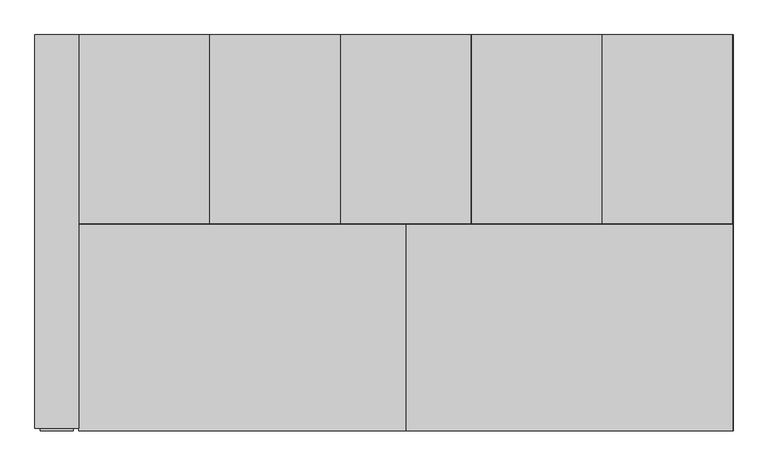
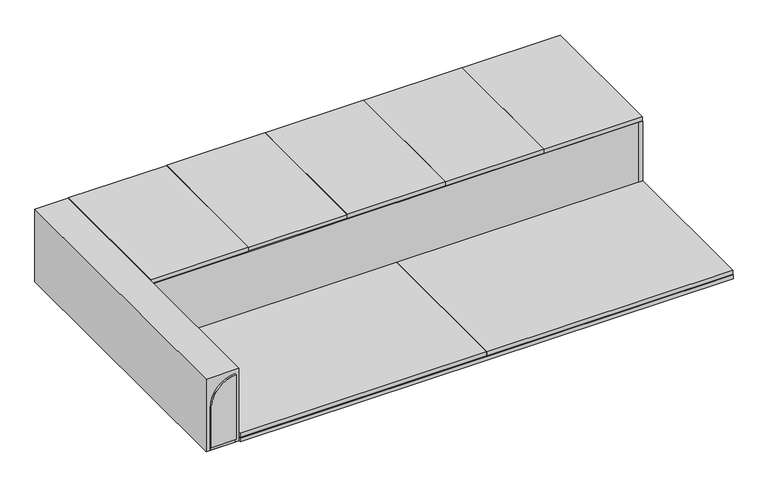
"""IFC4 building model written with IfcOpenShell, lengths in millimetres: proxy geometry, BASYS^OFFICE 1_HIGH RISE-14x55x90-5 DOORS."""

from ifc_helpers import new_model, si_unit, point, frame, frame_2d, origin, origin_with_axes, place, context, project, spatial, polyline, circle_curve, trimmed, segment, composite_curve, outline, extrude, source, transform, mapped, element, save


def generic_models_c48dc18b(model_context):
    return source(origin(), model_context, "Body", "SweptSolid", [
        extrude(outline(polyline([(2305.05, 1384.3), (2305.05, 723.9), (2286.0, 723.9), (2286.0, 1384.3), (2305.05, 1384.3)])), frame((0.0, 0.0, 19.05), z_axis=(0.0, 0.0, 1.0), x_axis=(1.0, 0.0, 0.0)), (0.0, 0.0, 1.0), 314.325),
        extrude(outline(polyline([(1389.22125, 723.9), (934.87875, 723.9), (934.87875, 1384.3), (1389.22125, 1384.3), (1389.22125, 723.9)])), frame((0.0, 0.0, 336.55), z_axis=(0.0, 0.0, 1.0), x_axis=(1.0, 0.0, 0.0)), (0.0, 0.0, 1.0), 19.05),
        extrude(outline(polyline([(475.77375, 723.9), (21.43125, 723.9), (21.43125, 1384.3), (475.77375, 1384.3), (475.77375, 723.9)])), frame((0.0, 0.0, 336.55), z_axis=(0.0, 0.0, 1.0), x_axis=(1.0, 0.0, 0.0)), (0.0, 0.0, 1.0), 19.05),
        extrude(outline(polyline([(0.0, 9.525), (-114.3, 9.525), (-114.3, 1384.3), (0.0, 1384.3), (0.0, 9.525)])), origin_with_axes(), (0.0, 0.0, 1.0), 19.05),
        extrude(outline(polyline([(1161.653125, 0.79375), (19.84375, 0.79375), (19.84375, 723.10625), (1161.653125, 723.10625), (1161.653125, 0.79375)])), frame((0.0, 0.0, 22.225), z_axis=(0.0, 0.0, 1.0), x_axis=(1.0, 0.0, 0.0)), (0.0, 0.0, 1.0), 19.05),
        extrude(outline(polyline([(1391.6025, 723.9), (1391.6025, 1384.3), (1845.945, 1384.3), (1845.945, 723.9), (1391.6025, 723.9)])), frame((0.0, 0.0, 336.55), z_axis=(0.0, 0.0, 1.0), x_axis=(1.0, 0.0, 0.0)), (0.0, 0.0, 1.0), 19.05),
        extrude(outline(polyline([(932.4975, 723.9), (478.155, 723.9), (478.155, 1384.3), (932.4975, 1384.3), (932.4975, 723.9)])), frame((0.0, 0.0, 336.55), z_axis=(0.0, 0.0, 1.0), x_axis=(1.0, 0.0, 0.0)), (0.0, 0.0, 1.0), 19.05),
        extrude(outline(polyline([(2286.0, 1384.3), (2286.0, 1365.25), (38.1, 1365.25), (38.1, 1384.3), (2286.0, 1384.3)])), frame((0.0, 0.0, 19.05), z_axis=(0.0, 0.0, 1.0), x_axis=(1.0, 0.0, 0.0)), (0.0, 0.0, 1.0), 314.325),
        extrude(outline(polyline([(19.05, 9.525), (-133.35, 9.525), (-133.35, 1384.3), (19.05, 1384.3), (19.05, 9.525)])), origin_with_axes(), (0.0, 0.0, 1.0), 355.6),
        extrude(outline(polyline([(2304.25625, 0.79375), (1162.446875, 0.79375), (1162.446875, 723.10625), (2304.25625, 723.10625), (2304.25625, 0.79375)])), frame((0.0, 0.0, 22.225), z_axis=(0.0, 0.0, 1.0), x_axis=(1.0, 0.0, 0.0)), (0.0, 0.0, 1.0), 19.05),
        extrude(outline(polyline([(1848.32625, 723.9), (1848.32625, 1384.3), (2302.66875, 1384.3), (2302.66875, 723.9), (1848.32625, 723.9)])), frame((0.0, 0.0, 336.55), z_axis=(0.0, 0.0, 1.0), x_axis=(1.0, 0.0, 0.0)), (0.0, 0.0, 1.0), 19.05),
        extrude(outline(polyline([(19.05, 1384.3), (38.1, 1384.3), (38.1, 723.9), (19.05, 723.9), (19.05, 1384.3)])), frame((0.0, 0.0, 19.05), z_axis=(0.0, 0.0, 1.0), x_axis=(1.0, 0.0, 0.0)), (0.0, 0.0, 1.0), 314.325),
        extrude(outline(composite_curve([segment(trimmed(circle_curve(frame_2d((215.9, 6.35)), 120.65), [point((336.3827789, 0.0))], [point((215.9, -114.3))], False, "CARTESIAN"), True, "CONTINUOUS"), segment(polyline([(215.9, -114.3), (19.05, -114.3), (19.05, 0.0), (336.3827789, 0.0)]), True, "CONTINUOUS")], self_intersect=False)), frame((0.0, 0.0, 0.0), z_axis=(0.0, 1.0, 0.0), x_axis=(0.0, 0.0, 1.0)), (0.0, 0.0, 1.0), 28.575),
        extrude(outline(composite_curve([segment(polyline([(336.55, 19.05), (336.55, 6.35)]), True, "CONTINUOUS"), segment(trimmed(circle_curve(frame_2d((215.9, 6.35)), 120.65), [point((336.55, 6.35))], [point((336.3827789, 0.0))], False, "CARTESIAN"), True, "CONTINUOUS"), segment(polyline([(336.3827789, 0.0), (0.0, 0.0), (0.0, 19.05), (336.55, 19.05)]), True, "CONTINUOUS")], self_intersect=False)), frame((0.0, 9.525, 0.0), z_axis=(0.0, 1.0, 0.0), x_axis=(0.0, 0.0, 1.0)), (0.0, 0.0, 1.0), 1374.775),
        extrude(outline(composite_curve([segment(polyline([(19.05, 0.0), (336.3827789, 0.0)]), True, "CONTINUOUS"), segment(trimmed(circle_curve(frame_2d((215.9, 6.35)), 120.65), [point((336.3827789, 0.0))], [point((215.9, -114.3))], False, "CARTESIAN"), True, "CONTINUOUS"), segment(polyline([(215.9, -114.3), (19.05, -114.3), (19.05, 0.0)]), True, "CONTINUOUS")], self_intersect=False)), frame((0.0, 1358.9, 0.0), z_axis=(0.0, 1.0, 0.0), x_axis=(0.0, 0.0, 1.0)), (0.0, 0.0, 1.0), 25.4),
        extrude(outline(polyline([(19.05, 0.0), (19.05, 1384.3), (2305.05, 1384.3), (2305.05, 0.0), (19.05, 0.0)])), origin_with_axes(), (0.0, 0.0, 1.0), 19.05),
        extrude(outline(polyline([(2286.0, 723.9), (38.1, 723.9), (38.1, 742.95), (2286.0, 742.95), (2286.0, 723.9)])), frame((0.0, 0.0, 19.05), z_axis=(0.0, 0.0, 1.0), x_axis=(1.0, 0.0, 0.0)), (0.0, 0.0, 1.0), 314.325),
    ])


if __name__ == "__main__":
    model = new_model("IFC4")
    model_context = context("Model", 3, world=origin())
    ifc_project = project(units=[si_unit("LENGTHUNIT", "METRE", prefix="MILLI")], contexts=[model_context])
    site = spatial("IfcSite", under=ifc_project)
    building = spatial("IfcBuilding", under=site)
    placement = place(None, origin())
    generic_models_shape = generic_models_c48dc18b(model_context)
    element("IfcBuildingElementProxy", 1, Name="BASYS^OFFICE 1_HIGH RISE-14x55x90-5 DOORS", ObjectType="BASYS^OFFICE 1_HIGH RISE-14x55x90-5 DOORS", at=placement, inside=building, context=model_context, shape_type="MappedRepresentation", body=[
        mapped(generic_models_shape, transform((0.0, 0.0, 0.0), x_axis=(1.0, 0.0, 0.0), y_axis=(0.0, 1.0, 0.0), z_axis=(0.0, 0.0, 1.0))),
    ])
    save(model, "model.ifc")
